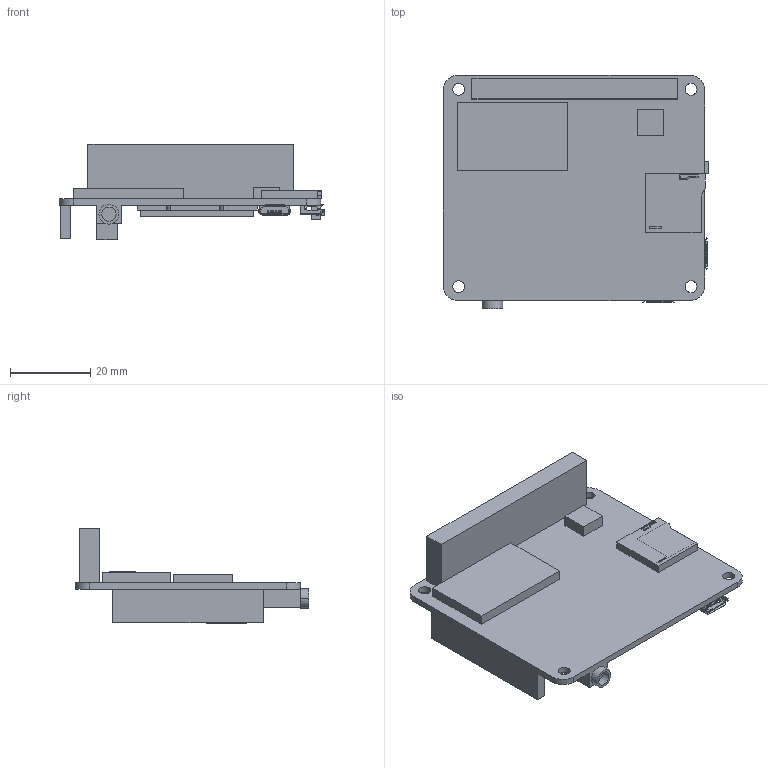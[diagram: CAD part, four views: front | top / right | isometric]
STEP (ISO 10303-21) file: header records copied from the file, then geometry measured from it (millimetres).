
FILE_DESCRIPTION((''),'2;1');
FILE_NAME('X20-2','2019-10-17T',('Administrator'),(''),'PRO/ENGINEER BY PARAMETRIC TECHNOLOGY CORPORATION, 2001280','PRO/ENGINEER BY PARAMETRIC TECHNOLOGY CORPORATION, 2001280','');
FILE_SCHEMA(('CONFIG_CONTROL_DESIGN'));
Length unit declared in the file: millimetre
Products named in the file (1): X20-2
Bounding box: 66.35 x 58.2 x 23.8 mm (x, y, z)
Volume: 15110.3 mm3; surface area: 11890.8 mm2
Topology: 1 solids, 1 shells, 1146 faces, 3234 edges, 2116 vertices
Faces by surface type: plane 808, cylinder 330, bspline 8
Entity records: 37552 total; most frequent: CARTESIAN_POINT 7560, ORIENTED_EDGE 6452, DIRECTION 5988, EDGE_CURVE 3226, VECTOR 2456, LINE 2456, VERTEX_POINT 2116, AXIS2_PLACEMENT_3D 1766
